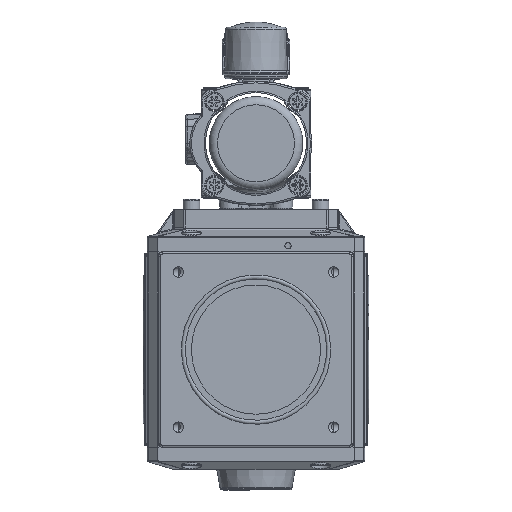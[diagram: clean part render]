
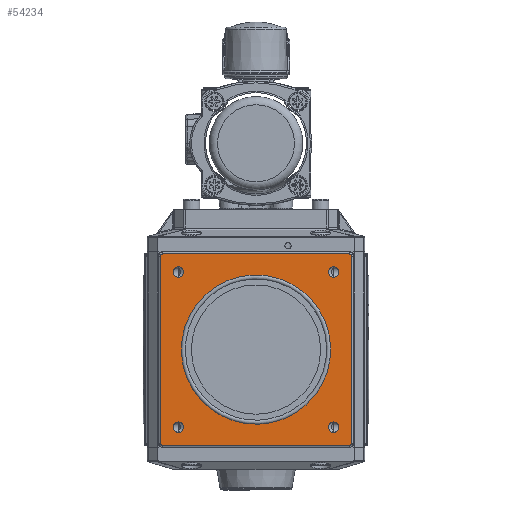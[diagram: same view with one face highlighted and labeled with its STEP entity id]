
A CAD part, front view. The second image highlights one B-rep face of the part: STEP entity #54234.
In plain terms, the highlighted planar face has unit normal (0, -1, 0).
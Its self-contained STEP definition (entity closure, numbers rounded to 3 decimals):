
#2832=FACE_BOUND('',#15997,.T.);
#2833=FACE_BOUND('',#15998,.T.);
#2834=FACE_BOUND('',#15999,.T.);
#2835=FACE_BOUND('',#16000,.T.);
#2836=FACE_BOUND('',#16001,.T.);
#3398=PLANE('',#58518);
#5603=LINE('',#130560,#8670);
#5632=LINE('',#130821,#8699);
#5715=LINE('',#131396,#8782);
#5718=LINE('',#131404,#8785);
#8670=VECTOR('',#67662,10.);
#8699=VECTOR('',#67793,10.);
#8782=VECTOR('',#68108,10.);
#8785=VECTOR('',#68117,10.);
#12682=FACE_OUTER_BOUND('',#15996,.T.);
#15996=EDGE_LOOP('',(#40777,#40778,#40779,#40780,#40781,#40782,#40783,#40784));
#15997=EDGE_LOOP('',(#40785));
#15998=EDGE_LOOP('',(#40786));
#15999=EDGE_LOOP('',(#40787));
#16000=EDGE_LOOP('',(#40788));
#16001=EDGE_LOOP('',(#40789));
#18785=CIRCLE('',#58218,72.213);
#18819=CIRCLE('',#58275,2.);
#18851=CIRCLE('',#58322,2.);
#18918=CIRCLE('',#58442,2.);
#18919=CIRCLE('',#58445,2.);
#18929=CIRCLE('',#58469,5.053);
#18931=CIRCLE('',#58473,5.053);
#18946=CIRCLE('',#58506,5.053);
#18950=CIRCLE('',#58515,5.053);
#22915=VERTEX_POINT('',#130296);
#22968=VERTEX_POINT('',#130558);
#22969=VERTEX_POINT('',#130559);
#22972=VERTEX_POINT('',#130567);
#23018=VERTEX_POINT('',#130807);
#23019=VERTEX_POINT('',#130808);
#23138=VERTEX_POINT('',#131395);
#23139=VERTEX_POINT('',#131399);
#23140=VERTEX_POINT('',#131403);
#23153=VERTEX_POINT('',#131519);
#23154=VERTEX_POINT('',#131525);
#23168=VERTEX_POINT('',#131634);
#23172=VERTEX_POINT('',#131667);
#28953=EDGE_CURVE('',#22915,#22915,#18785,.T.);
#29026=EDGE_CURVE('',#22968,#22969,#5603,.T.);
#29030=EDGE_CURVE('',#22972,#22968,#18819,.T.);
#29096=EDGE_CURVE('',#23018,#23019,#18851,.T.);
#29101=EDGE_CURVE('',#23019,#22972,#5632,.T.);
#29278=EDGE_CURVE('',#23138,#23018,#5715,.T.);
#29280=EDGE_CURVE('',#23139,#23138,#18918,.T.);
#29282=EDGE_CURVE('',#23140,#23139,#5718,.T.);
#29284=EDGE_CURVE('',#22969,#23140,#18919,.T.);
#29306=EDGE_CURVE('',#23153,#23153,#18929,.T.);
#29309=EDGE_CURVE('',#23154,#23154,#18931,.T.);
#29338=EDGE_CURVE('',#23168,#23168,#18946,.T.);
#29346=EDGE_CURVE('',#23172,#23172,#18950,.T.);
#40777=ORIENTED_EDGE('',*,*,#29278,.F.);
#40778=ORIENTED_EDGE('',*,*,#29280,.F.);
#40779=ORIENTED_EDGE('',*,*,#29282,.F.);
#40780=ORIENTED_EDGE('',*,*,#29284,.F.);
#40781=ORIENTED_EDGE('',*,*,#29026,.F.);
#40782=ORIENTED_EDGE('',*,*,#29030,.F.);
#40783=ORIENTED_EDGE('',*,*,#29101,.F.);
#40784=ORIENTED_EDGE('',*,*,#29096,.F.);
#40785=ORIENTED_EDGE('',*,*,#28953,.T.);
#40786=ORIENTED_EDGE('',*,*,#29306,.T.);
#40787=ORIENTED_EDGE('',*,*,#29309,.T.);
#40788=ORIENTED_EDGE('',*,*,#29338,.T.);
#40789=ORIENTED_EDGE('',*,*,#29346,.T.);
#54234=ADVANCED_FACE('',(#12682,#2832,#2833,#2834,#2835,#2836),#3398,.T.);
#58218=AXIS2_PLACEMENT_3D('',#130298,#67522,#67523);
#58275=AXIS2_PLACEMENT_3D('',#130568,#67668,#67669);
#58322=AXIS2_PLACEMENT_3D('',#130809,#67785,#67786);
#58442=AXIS2_PLACEMENT_3D('',#131400,#68112,#68113);
#58445=AXIS2_PLACEMENT_3D('',#131407,#68121,#68122);
#58469=AXIS2_PLACEMENT_3D('',#131520,#68173,#68174);
#58473=AXIS2_PLACEMENT_3D('',#131526,#68182,#68183);
#58506=AXIS2_PLACEMENT_3D('',#131635,#68256,#68257);
#58515=AXIS2_PLACEMENT_3D('',#131668,#68276,#68277);
#58518=AXIS2_PLACEMENT_3D('',#131672,#68283,#68284);
#67522=DIRECTION('center_axis',(0.,1.,0.));
#67523=DIRECTION('ref_axis',(0.,0.,-1.));
#67662=DIRECTION('',(0.,0.,1.));
#67668=DIRECTION('center_axis',(0.,1.,0.));
#67669=DIRECTION('ref_axis',(-0.707,0.,-0.707));
#67785=DIRECTION('center_axis',(0.,1.,0.));
#67786=DIRECTION('ref_axis',(0.707,0.,-0.707));
#67793=DIRECTION('',(-1.,0.,0.));
#68108=DIRECTION('',(0.,0.,-1.));
#68112=DIRECTION('center_axis',(0.,1.,0.));
#68113=DIRECTION('ref_axis',(0.707,0.,0.707));
#68117=DIRECTION('',(1.,0.,0.));
#68121=DIRECTION('center_axis',(0.,1.,0.));
#68122=DIRECTION('ref_axis',(-0.707,0.,0.707));
#68173=DIRECTION('center_axis',(0.,1.,0.));
#68174=DIRECTION('ref_axis',(0.,0.,
-1.));
#68182=DIRECTION('center_axis',(0.,1.,0.));
#68183=DIRECTION('ref_axis',(0.,0.,
-1.));
#68256=DIRECTION('center_axis',(0.,1.,0.));
#68257=DIRECTION('ref_axis',(0.,0.,
-1.));
#68276=DIRECTION('center_axis',(0.,1.,0.));
#68277=DIRECTION('ref_axis',(0.,0.,
-1.));
#68283=DIRECTION('center_axis',(0.,-1.,0.));
#68284=DIRECTION('ref_axis',(0.,0.,
1.));
#130296=CARTESIAN_POINT('',(61.183,-108.,-20.379));
#130298=CARTESIAN_POINT('Origin',(0.,-108.,-58.737));
#130558=CARTESIAN_POINT('',(-92.5,-108.,-149.237));
#130559=CARTESIAN_POINT('',(-92.5,-108.,31.763));
#130560=CARTESIAN_POINT('',(-92.5,-108.,-12.487));
#130567=CARTESIAN_POINT('',(-90.5,-108.,-151.237));
#130568=CARTESIAN_POINT('Origin',(-90.5,-108.,-149.237));
#130807=CARTESIAN_POINT('',(92.5,-108.,-149.237));
#130808=CARTESIAN_POINT('',(90.5,-108.,-151.237));
#130809=CARTESIAN_POINT('Origin',(90.5,-108.,-149.237));
#130821=CARTESIAN_POINT('',(-46.25,-108.,-151.237));
#131395=CARTESIAN_POINT('',(92.5,-108.,31.763));
#131396=CARTESIAN_POINT('',(92.5,-108.,-104.987));
#131399=CARTESIAN_POINT('',(90.5,-108.,33.763));
#131400=CARTESIAN_POINT('Origin',(90.5,-108.,31.763));
#131403=CARTESIAN_POINT('',(-90.5,-108.,33.763));
#131404=CARTESIAN_POINT('',(46.25,-108.,33.763));
#131407=CARTESIAN_POINT('Origin',(-90.5,-108.,31.763));
#131519=CARTESIAN_POINT('',(-75.,-108.,-128.684));
#131520=CARTESIAN_POINT('Origin',(-75.,-108.,-133.737));
#131525=CARTESIAN_POINT('',(-75.,-108.,21.316));
#131526=CARTESIAN_POINT('Origin',(-75.,-108.,16.263));
#131634=CARTESIAN_POINT('',(75.,-108.,21.316));
#131635=CARTESIAN_POINT('Origin',(75.,-108.,16.263));
#131667=CARTESIAN_POINT('',(75.,-108.,-128.684));
#131668=CARTESIAN_POINT('Origin',(75.,-108.,-133.737));
#131672=CARTESIAN_POINT('Origin',(0.,-108.,-58.737));
